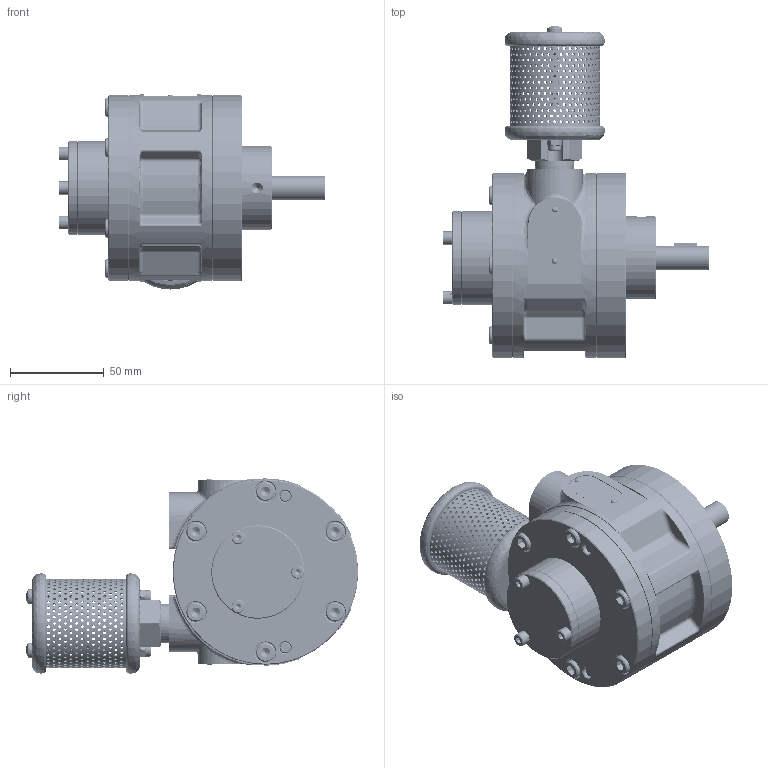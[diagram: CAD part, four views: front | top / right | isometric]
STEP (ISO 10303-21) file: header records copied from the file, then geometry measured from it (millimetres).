
FILE_DESCRIPTION (( 'STEP AP214' ), '1' );
FILE_NAME ('4VML-Face (Alu. End Plates)_23-04-26.STEP', '2026-04-23T11:30:13', ( '' ), ( '' ), 'SwSTEP 2.0', 'SolidWorks 2017', '' );
FILE_SCHEMA (( 'AUTOMOTIVE_DESIGN' ));
Length unit declared in the file: millimetre
Products named in the file (2): 4VML-Face (Alu. End Plates)_23-04-26
Bounding box: 142.45 x 177.42 x 104.25 mm (x, y, z)
Volume: 287809.6 mm3; surface area: 162846.4 mm2
Topology: 60 solids, 60 shells, 4349 faces, 11829 edges, 7520 vertices
Faces by surface type: cylinder 2459, cone 1017, plane 640, bspline 233
Entity records: 196753 total; most frequent: CARTESIAN_POINT 78054, ORIENTED_EDGE 23426, DIRECTION 19564, EDGE_CURVE 11713, AXIS2_PLACEMENT_3D 7641, VERTEX_POINT 7520, EDGE_LOOP 5961, FACE_OUTER_BOUND 4349
